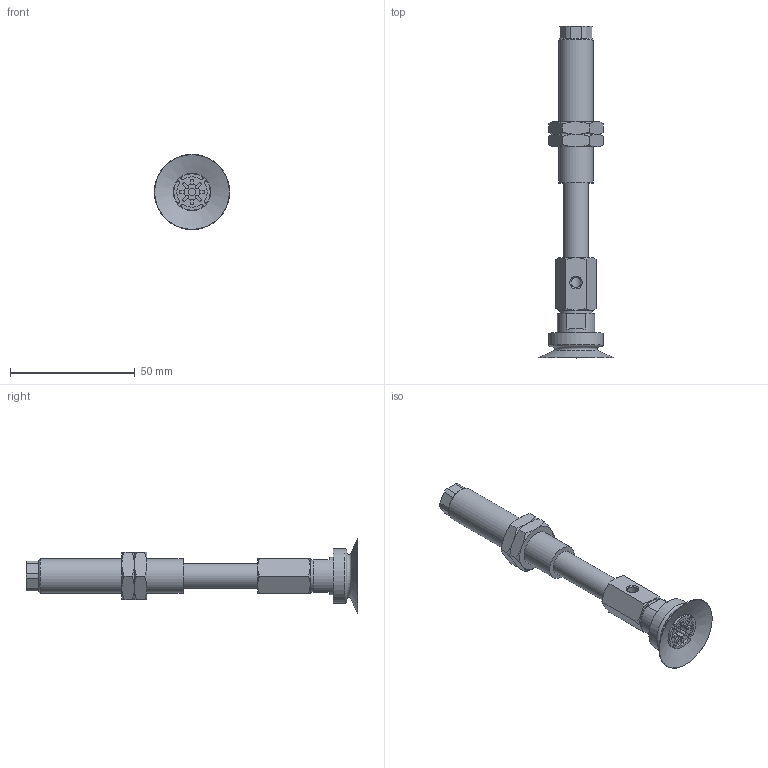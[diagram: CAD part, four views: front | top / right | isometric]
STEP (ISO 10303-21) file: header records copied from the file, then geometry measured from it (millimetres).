
FILE_DESCRIPTION(('STEP AP203'),'1');
FILE_NAME('.stp','2025-02-28T06:00:56',(' '),(' '),'Spatial InterOp 3D',' ',' ');
FILE_SCHEMA(('CONFIG_CONTROL_DESIGN'));
Length unit declared in the file: millimetre
Products named in the file (6): BNABPAYS-30-30-※; NAPAYS-30B-30--M; NAPAYS-30B-30--F; Nut-25-S; CONNECTOR-30B-30-PA; BPAG-30-※
Assembly tree (6 placements, depth 2):
  BNABPAYS-30-30-※
    NAPAYS-30B-30--M
    NAPAYS-30B-30--F
    Nut-25-S  x2
    CONNECTOR-30B-30-PA
    BPAG-30-※
Bounding box: 30.3 x 133.2 x 30.3 mm (x, y, z)
Volume: 20437.3 mm3; surface area: 15092.7 mm2
Topology: 6 solids, 6 shells, 198 faces, 454 edges, 285 vertices
Faces by surface type: plane 87, cylinder 58, cone 51, torus 2
Full cylindrical faces by diameter (mm): 3 x2, 4.134 x2, 4.6 x1, 4.917 x1, 5 x1, 6 x1, 10 x2, 12.917 x2, 13 x1, 14 x1, 15 x1, 22 x1
Entity records: 5432 total; most frequent: CARTESIAN_POINT 1205, DIRECTION 852, ORIENTED_EDGE 750, EDGE_CURVE 375, AXIS2_PLACEMENT_3D 346, VERTEX_POINT 255, EDGE_LOOP 230, FACE_OUTER_BOUND 192
